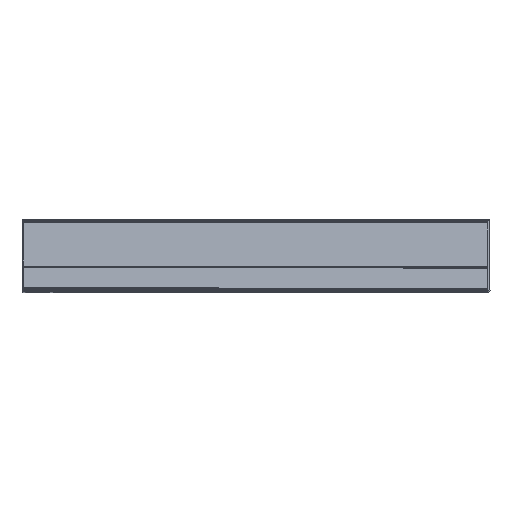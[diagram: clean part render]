
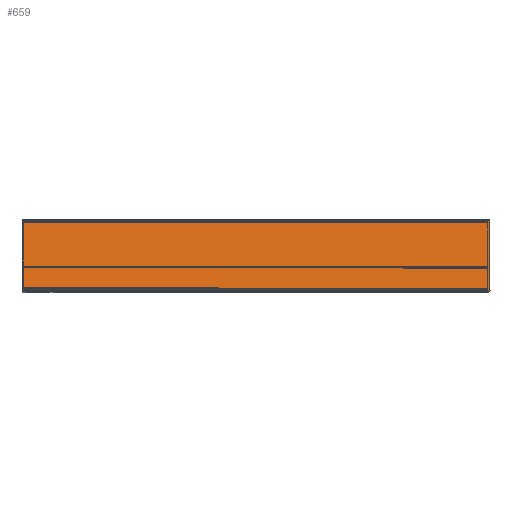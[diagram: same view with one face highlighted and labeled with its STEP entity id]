
A CAD part, top view. The second image highlights one B-rep face of the part: STEP entity #659.
In plain terms, the highlighted planar face has unit normal (0.5, 0, 0.866) as drawn and (-1, 0, 0) by its records, which use the part's own axes.
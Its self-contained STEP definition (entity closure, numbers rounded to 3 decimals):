
#659=ADVANCED_FACE('',(#2902),#2904,.T.);
#2902=FACE_BOUND('',#2903,.T.);
#2903=EDGE_LOOP('',(#6300,#6301,#6302,#6303));
#2904=PLANE('',#2905);
#2905=AXIS2_PLACEMENT_3D('',#2906,#2907,#2908);
#2906=CARTESIAN_POINT('',(-17.5,4.,-298.5));
#2907=DIRECTION('',(-1.,0.,0.));
#2908=DIRECTION('',(0.,-1.,0.));
#6300=ORIENTED_EDGE('',*,*,#8883,.T.);
#6301=ORIENTED_EDGE('',*,*,#8882,.T.);
#6302=ORIENTED_EDGE('',*,*,#8884,.T.);
#6303=ORIENTED_EDGE('',*,*,#8885,.F.);
#8882=EDGE_CURVE('',#10980,#10982,#10984,.T.);
#8883=EDGE_CURVE('',#10985,#10980,#10986,.F.);
#8884=EDGE_CURVE('',#10982,#10987,#10988,.F.);
#8885=EDGE_CURVE('',#10985,#10987,#10989,.T.);
#10980=VERTEX_POINT('',#15452);
#10982=VERTEX_POINT('',#15457);
#10984=LINE('',#15462,#15463);
#10985=VERTEX_POINT('',#15465);
#10986=LINE('',#15466,#15467);
#10987=VERTEX_POINT('',#15469);
#10988=LINE('',#15470,#15471);
#10989=LINE('',#15473,#15474);
#15452=CARTESIAN_POINT('',(-17.5,-73.75,-298.5));
#15457=CARTESIAN_POINT('',(-17.5,-73.75,298.5));
#15462=CARTESIAN_POINT('',(-17.5,-73.75,-298.5));
#15463=VECTOR('',#15464,1.);
#15464=DIRECTION('',(0.,0.,1.));
#15465=CARTESIAN_POINT('',(-17.5,4.,-298.5));
#15466=CARTESIAN_POINT('',(-17.5,-73.75,-298.5));
#15467=VECTOR('',#15468,1.);
#15468=DIRECTION('',(0.,1.,0.));
#15469=CARTESIAN_POINT('',(-17.5,4.,298.5));
#15470=CARTESIAN_POINT('',(-17.5,4.,298.5));
#15471=VECTOR('',#15472,1.);
#15472=DIRECTION('',(0.,-1.,0.));
#15473=CARTESIAN_POINT('',(-17.5,4.,-298.5));
#15474=VECTOR('',#15475,1.);
#15475=DIRECTION('',(0.,0.,1.));
